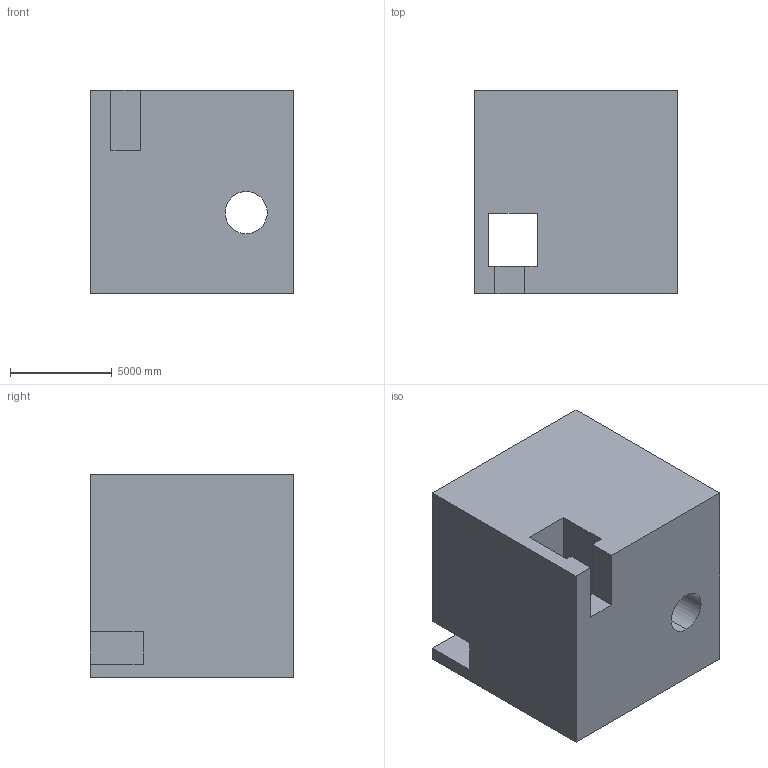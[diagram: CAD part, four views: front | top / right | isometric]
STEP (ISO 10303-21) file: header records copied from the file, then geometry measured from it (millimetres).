
FILE_DESCRIPTION (( 'STEP AP203' ), '1' );
FILE_NAME ('469.STEP', '2022-08-04T14:27:10', ( 'user' ), ( '' ), 'SwSTEP 2.0', 'SolidWorks 2021', '' );
FILE_SCHEMA (( 'CONFIG_CONTROL_DESIGN' ));
Length unit declared in the file: centimetre
Products named in the file (1): 469
Bounding box: 10000 x 10000 x 10000 mm (x, y, z)
Volume: 871328553939.3 mm3; surface area: 779315930.9 mm2
Topology: 1 solids, 1 shells, 23 faces, 66 edges, 44 vertices
Faces by surface type: plane 21, cylinder 2
Entity records: 829 total; most frequent: CARTESIAN_POINT 134, ORIENTED_EDGE 132, DIRECTION 118, EDGE_CURVE 66, VECTOR 62, LINE 62, VERTEX_POINT 44, AXIS2_PLACEMENT_3D 28
